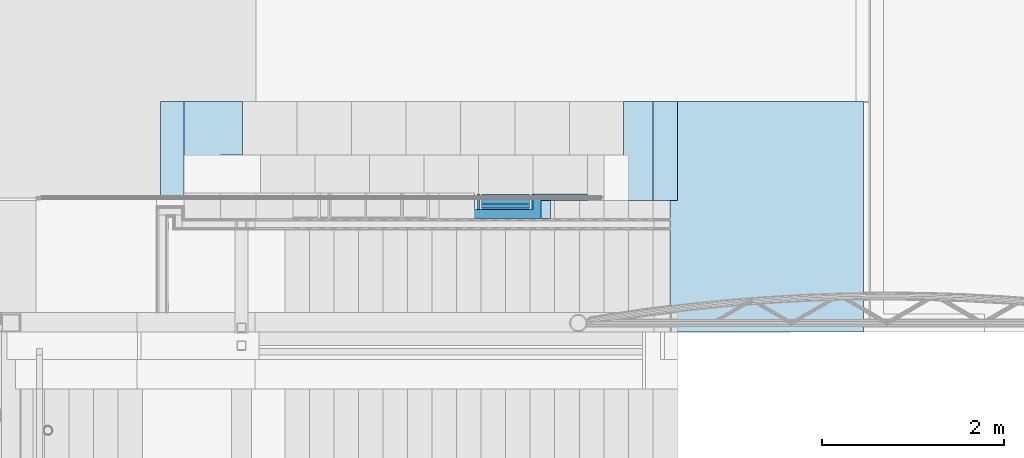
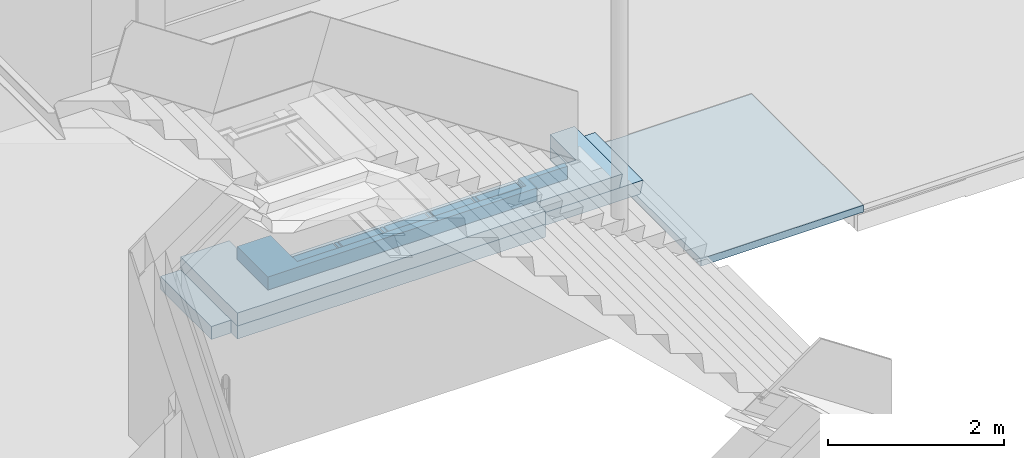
# One storey, part 18 of 165: 4 slabs.
"""IFC2X3 building model written with IfcOpenShell, lengths in millimetres."""

from ifc_helpers import new_model, entity, si_unit, converted_unit, derived_unit, money_unit, direction, frame, origin_with_axes, place, context, subcontext, project, spatial, faceted_brep, material, type_object, element, save


model = new_model("IFC2X3")

# Units and contexts
model_context = context("Model", 3, precision=0.01, world=origin_with_axes(), true_north=direction((0.0, 1.0)))
body_context = subcontext(model_context, "Body", "Model", "MODEL_VIEW")
ifc_project = project(units=[si_unit("LENGTHUNIT", "METRE", prefix="MILLI"), si_unit("AREAUNIT", "SQUARE_METRE"), si_unit("VOLUMEUNIT", "CUBIC_METRE"), converted_unit("PLANEANGLEUNIT", "DEGREE", entity("IfcPlaneAngleMeasure", 0.0174532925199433), si_unit("PLANEANGLEUNIT", "RADIAN"), dimensions=[0, 0, 0, 0, 0, 0, 0]), money_unit("EUR"), converted_unit("TIMEUNIT", "Year", entity("IfcTimeMeasure", 31556926.0), si_unit("TIMEUNIT", "SECOND"), dimensions=[0, 0, 1, 0, 0, 0, 0]), si_unit("MASSUNIT", "GRAM", prefix="KILO"), si_unit("THERMODYNAMICTEMPERATUREUNIT", "DEGREE_CELSIUS"), si_unit("LUMINOUSINTENSITYUNIT", "LUMEN"), si_unit("ENERGYUNIT", "JOULE", prefix="MEGA"), derived_unit("THERMALCONDUCTANCEUNIT", [(si_unit("POWERUNIT", "WATT"), 1), (si_unit("LENGTHUNIT", "METRE"), -1), (si_unit("THERMODYNAMICTEMPERATUREUNIT", "KELVIN"), -1)]), derived_unit("SPECIFICHEATCAPACITYUNIT", [(si_unit("ENERGYUNIT", "JOULE"), 1), (si_unit("MASSUNIT", "GRAM", prefix="KILO"), -1), (si_unit("THERMODYNAMICTEMPERATUREUNIT", "KELVIN"), -1)]), derived_unit("MASSDENSITYUNIT", [(si_unit("MASSUNIT", "GRAM", prefix="KILO"), 1), (si_unit("VOLUMEUNIT", "CUBIC_METRE"), -1)])], contexts=[model_context])

# Site, building, storey
site_placement = place(None, origin_with_axes())
site = spatial("IfcSite", under=ifc_project, at=site_placement, Name="Site", CompositionType="ELEMENT")
building_placement = place(site_placement, origin_with_axes())
building = spatial("IfcBuilding", under=site, at=building_placement, Name="Naam gebouw", CompositionType="ELEMENT")
storey_placement = place(building_placement, origin_with_axes())
storey = spatial("IfcBuildingStorey", under=building, at=storey_placement, Name="Begane grond", CompositionType="ELEMENT", Elevation=0.0)

# Slabs
ifc_material_1 = material(Name="Beton gewapend C vloer")
slab_type_1 = type_object("IfcSlabType", Name="Beton gewapend C vloer 180", PredefinedType="NOTDEFINED")
slab_1_placement = place(storey_placement, frame((13098.57016167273, 5869.999789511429, 180.0), z_axis=(0.0, 0.0, 1.0), x_axis=(1.0, 0.0, 0.0)))
element("IfcSlab", 1, at=slab_1_placement, inside=storey, type_object=slab_type_1, material=ifc_material_1, Name="f2- Met cement gebonden producten (alle vulmiddelen)_Vloer-x", PredefinedType="NOTDEFINED", context=body_context, shape_type="Brep", body=[
    faceted_brep([(0.0, 1150.000210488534, 0.0), (0.0, 0.0, 0.0), (259.9999958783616, 0.0, 0.0), (259.9999958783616, -140.0024851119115, 0.0), (4296.429850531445, -140.0024851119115, 0.0), (4296.429850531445, 60.00047262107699, 0.0), (5691.429855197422, 60.00047262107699, 0.0), (5691.429855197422, 1150.000210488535, 0.0), (5101.429827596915, 1150.000210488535, 0.0), (5101.429827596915, 560.0004646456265, 0.0), (901.4298777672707, 560.0004646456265, 0.0), (901.4298777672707, 1150.000210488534, 0.0), (-3.895159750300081e-07, 1150.000210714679, -179.9999997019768), (-3.895159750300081e-07, -1.367519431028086e-07, -179.9999997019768), (259.9999956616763, -1.367519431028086e-07, -179.9999997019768), (259.9999956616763, -140.0024855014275, -179.9999997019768), (4296.429850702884, -140.0024855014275, -179.9999997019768), (4296.429850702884, 60.00047256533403, -179.9999997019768), (5653.169673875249, 60.00047256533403, -179.9999997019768), (5653.169673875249, 1150.000210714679, -179.9999997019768), (5101.429828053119, 1150.000210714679, -179.9999997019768), (5101.429828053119, 560.0004641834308, -179.9999997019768), (901.4298781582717, 560.0004641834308, -179.9999997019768), (901.4298781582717, 1150.000210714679, -179.9999997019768)], [[[0, 1, 2, 3, 4, 5, 6, 7, 8, 9, 10, 11]], [[1, 0, 12, 13]], [[2, 1, 13, 14]], [[3, 2, 14, 15]], [[4, 3, 15, 16]], [[5, 4, 16, 17]], [[6, 5, 17, 18]], [[7, 6, 18, 19]], [[8, 7, 19, 20]], [[9, 8, 20, 21]], [[10, 9, 21, 22]], [[11, 10, 22, 23]], [[0, 11, 23, 12]], [[13, 12, 23, 22, 21, 20, 19, 18, 17, 16, 15, 14]]]),
])
slab_2_placement = place(storey_placement, frame((14200.00001687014, 6430.000239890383, 719.9999999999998), z_axis=(0.0, 0.0, 1.0), x_axis=(1.0, 0.0, 0.0)))
element("IfcSlab", 2, at=slab_2_placement, inside=storey, type_object=slab_type_1, material=ifc_material_1, Name="f2- Met cement gebonden producten (alle vulmiddelen)_Vloer-x", PredefinedType="NOTDEFINED", context=body_context, shape_type="Brep", body=[
    faceted_brep([(2436.000000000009, -590.9999999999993, -179.9999999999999), (2436.000000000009, -590.9999999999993, -68.00000000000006), (2964.000000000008, -590.9999999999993, -68.00000000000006), (2964.000000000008, -590.9999999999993, -179.9999999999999), (2436.000000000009, -599.9999999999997, -68.00000000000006), (2436.000000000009, -599.9999999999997, -179.9999999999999), (2964.000000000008, -599.9999999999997, -68.00000000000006), (2964.000000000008, -599.9999999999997, -179.9999999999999), (2982.000000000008, -599.9999999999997, -179.9999999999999), (2982.000000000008, -598.9999999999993, -179.9999999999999), (3000.000000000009, -598.9999999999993, -179.9999999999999), (3000.000000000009, -430.0000533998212, -179.9999999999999), (3600.00000000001, -430.0000640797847, -179.9999999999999), (3600.00000000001, -499.9999876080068, -179.9999999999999), (3086.312548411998, -499.9999876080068, -179.9999999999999), (3086.312548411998, -700.0029354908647, -179.9999999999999), (-441.4298611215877, -700.0029354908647, -179.9999999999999), (-441.4298611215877, 0.0, -179.9999999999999), (0.0, 0.0, -179.9999999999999), (0.0, -429.9999999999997, -179.9999999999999), (0.0, -599.9999999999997, -179.9999999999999), (18.00000000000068, -599.9999999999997, -179.9999999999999), (18.00000000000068, -590.9999999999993, -179.9999999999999), (564.0, -590.9999999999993, -179.9999999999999), (564.0, -599.9999999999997, -179.9999999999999), (582.0000000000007, -599.9999999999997, -179.9999999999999), (582.0000000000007, -598.9999999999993, -179.9999999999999), (618.0000000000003, -598.9999999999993, -179.9999999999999), (618.0000000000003, -599.9999999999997, -179.9999999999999), (635.9999999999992, -599.9999999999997, -179.9999999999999), (635.9999999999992, -590.9999999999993, -179.9999999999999), (1164.0, -590.9999999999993, -179.9999999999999), (1164.0, -599.9999999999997, -179.9999999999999), (1182.0, -599.9999999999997, -179.9999999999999), (1182.0, -598.9999999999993, -179.9999999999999), (1218.000000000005, -598.9999999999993, -179.9999999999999), (1218.000000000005, -599.9999999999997, -179.9999999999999), (1236.000000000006, -599.9999999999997, -179.9999999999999), (1236.000000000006, -590.9999999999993, -179.9999999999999), (1764.000000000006, -590.9999999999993, -179.9999999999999), (1764.000000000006, -599.9999999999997, -179.9999999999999), (1782.000000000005, -599.9999999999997, -179.9999999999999), (1782.000000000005, -598.9999999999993, -179.9999999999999), (1818.000000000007, -598.9999999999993, -179.9999999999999), (1818.000000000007, -599.9999999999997, -179.9999999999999), (1836.000000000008, -599.9999999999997, -179.9999999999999), (1836.000000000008, -590.9999999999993, -179.9999999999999), (2364.000000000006, -590.9999999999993, -179.9999999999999), (2364.000000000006, -599.9999999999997, -179.9999999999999), (2382.000000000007, -599.9999999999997, -179.9999999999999), (2382.000000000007, -598.9999999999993, -179.9999999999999), (2400.000000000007, -598.9999999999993, -179.9999999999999), (2418.000000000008, -598.9999999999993, -179.9999999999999), (2418.000000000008, -599.9999999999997, -179.9999999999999), (2418.000000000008, -599.9999999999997, -50.00000000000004), (2382.000000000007, -599.9999999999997, -50.00000000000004), (2364.000000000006, -599.9999999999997, -68.00000000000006), (1836.000000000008, -599.9999999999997, -68.00000000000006), (1818.000000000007, -599.9999999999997, -50.00000000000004), (1782.000000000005, -599.9999999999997, -50.00000000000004), (1764.000000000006, -599.9999999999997, -68.00000000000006), (1236.000000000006, -599.9999999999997, -68.00000000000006), (1218.000000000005, -599.9999999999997, -50.00000000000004), (1182.0, -599.9999999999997, -50.00000000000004), (1164.0, -599.9999999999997, -68.00000000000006), (635.9999999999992, -599.9999999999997, -68.00000000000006), (618.0000000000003, -599.9999999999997, -50.00000000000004), (582.0000000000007, -599.9999999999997, -50.00000000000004), (564.0, -599.9999999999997, -68.00000000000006), (18.00000000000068, -599.9999999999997, -68.00000000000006), (0.0, -599.9999999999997, -50.00000000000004), (0.0, -599.9999999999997, 0.0), (2400.000000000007, -599.9999999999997, 0.0), (3000.000000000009, -599.9999999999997, 0.0), (3000.000000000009, -599.9999999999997, -50.00000000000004), (2982.000000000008, -599.9999999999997, -50.00000000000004), (2982.000000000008, -430.0000640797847, -50.00000000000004), (2982.000000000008, -430.0000640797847, -50.99999999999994), (2982.000000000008, -598.9999999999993, -50.99999999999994), (3000.000000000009, -598.9999999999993, -50.99999999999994), (3000.000000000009, -430.0000640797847, -50.99999999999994), (3000.000000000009, -430.0000640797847, -50.00000000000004), (3000.000000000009, -430.0000533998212, 0.0), (3600.00000000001, -430.0000640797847, 0.0), (3600.00000000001, -499.9999876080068, 0.0), (3086.312548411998, -499.9999876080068, 0.0), (3086.312548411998, -700.0029354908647, 0.0), (-441.4298611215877, -700.0029354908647, 0.0), (-441.4298611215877, 0.0, 0.0), (0.0, 0.0, 0.0), (0.0, -429.9999999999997, 0.0), (18.00000000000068, -590.9999999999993, -68.00000000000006), (564.0, -590.9999999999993, -68.00000000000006), (582.0000000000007, -430.0000640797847, -50.99999999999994), (582.0000000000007, -598.9999999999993, -50.99999999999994), (582.0000000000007, -430.000062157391, -50.00000000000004), (618.0000000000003, -598.9999999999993, -50.99999999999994), (618.0000000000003, -430.0000640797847, -50.99999999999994), (618.0000000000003, -430.0000640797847, -50.00000000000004), (635.9999999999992, -590.9999999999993, -68.00000000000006), (1164.0, -590.9999999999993, -68.00000000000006), (1182.0, -598.9999999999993, -50.99999999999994), (1182.0, -430.0000640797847, -50.00000000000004), (1182.0, -430.0000640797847, -50.99999999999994), (1218.000000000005, -598.9999999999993, -50.99999999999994), (1218.000000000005, -430.0000640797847, -50.99999999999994), (1218.000000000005, -430.0000640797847, -50.00000000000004), (1236.000000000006, -590.9999999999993, -68.00000000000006), (1764.000000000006, -590.9999999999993, -68.00000000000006), (1782.000000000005, -430.0000640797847, -50.00000000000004), (1782.000000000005, -430.0000640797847, -50.99999999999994), (1782.000000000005, -598.9999999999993, -50.99999999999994), (1818.000000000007, -598.9999999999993, -50.99999999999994), (1818.000000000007, -430.0000640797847, -50.99999999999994), (1818.000000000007, -430.0000640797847, -50.00000000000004), (1836.000000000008, -590.9999999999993, -68.00000000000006), (2364.000000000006, -590.9999999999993, -68.00000000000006), (2382.000000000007, -430.0000640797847, -50.00000000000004), (2382.000000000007, -430.0000640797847, -50.99999999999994), (2382.000000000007, -598.9999999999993, -50.99999999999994), (2418.000000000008, -598.9999999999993, -50.99999999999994), (2418.000000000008, -430.0000640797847, -50.99999999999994), (2418.000000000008, -430.0000640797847, -50.00000000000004), (2400.000000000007, -430.0000640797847, -50.00000000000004), (2400.000000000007, -430.0000640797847, -50.99999999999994)], [[[0, 1, 2, 3]], [[4, 1, 0, 5]], [[1, 4, 6, 2]], [[3, 2, 6, 7]], [[5, 0, 3, 7, 8, 9, 10, 11, 12, 13, 14, 15, 16, 17, 18, 19, 20, 21, 22, 23, 24, 25, 26, 27, 28, 29, 30, 31, 32, 33, 34, 35, 36, 37, 38, 39, 40, 41, 42, 43, 44, 45, 46, 47, 48, 49, 50, 51, 52, 53]], [[54, 55, 49, 48, 56, 57, 45, 44, 58, 59, 41, 40, 60, 61, 37, 36, 62, 63, 33, 32, 64, 65, 29, 28, 66, 67, 25, 24, 68, 69, 21, 20, 70, 71, 72, 73, 74, 75, 8, 7, 6, 4, 5, 53]], [[75, 76, 77, 78, 9, 8]], [[9, 78, 79, 10]], [[80, 11, 10, 79]], [[77, 76, 81, 82, 83, 12, 11, 80]], [[83, 84, 13, 12]], [[84, 85, 14, 13]], [[85, 86, 15, 14]], [[86, 87, 16, 15]], [[87, 88, 17, 16]], [[88, 89, 18, 17]], [[19, 18, 89, 90]], [[20, 19, 90, 71, 70]], [[69, 91, 22, 21]], [[92, 23, 22, 91]], [[23, 92, 68, 24]], [[93, 94, 26, 25, 67, 95]], [[27, 26, 94, 96]], [[28, 27, 96, 97, 98, 66]], [[99, 30, 29, 65]], [[31, 30, 99, 100]], [[100, 64, 32, 31]], [[101, 34, 33, 63, 102, 103]], [[34, 101, 104, 35]], [[35, 104, 105, 106, 62, 36]], [[38, 37, 61, 107]], [[108, 39, 38, 107]], [[60, 40, 39, 108]], [[42, 41, 59, 109, 110, 111]], [[111, 112, 43, 42]], [[112, 113, 114, 58, 44, 43]], [[45, 57, 115, 46]], [[115, 116, 47, 46]], [[48, 47, 116, 56]], [[49, 55, 117, 118, 119, 50]], [[120, 52, 51, 50, 119]], [[121, 122, 54, 53, 52, 120]], [[54, 122, 123, 117, 55]], [[57, 56, 116, 115]], [[59, 58, 114, 109]], [[60, 108, 107, 61]], [[102, 63, 62, 106]], [[100, 99, 65, 64]], [[98, 95, 67, 66]], [[68, 92, 91, 69]], [[73, 72, 71, 90, 89, 88, 87, 86, 85, 84, 83, 82]], [[73, 82, 81, 74]], [[76, 75, 74, 81]], [[78, 77, 80, 79]], [[96, 94, 93, 97]], [[97, 93, 95, 98]], [[103, 102, 106, 105]], [[101, 103, 105, 104]], [[109, 114, 113, 110]], [[110, 113, 112, 111]], [[122, 121, 124, 118, 117, 123]], [[121, 120, 119, 118, 124]]]),
    faceted_brep([(2436.000000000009, -430.0000433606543, -179.9999999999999), (2436.000000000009, -430.0000640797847, -50.00000000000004), (2964.000000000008, -430.0000640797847, -50.00000000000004), (2964.000000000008, -430.0000527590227, -179.9999999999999), (2959.000000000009, -430.0000526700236, -179.9999999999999), (2959.000000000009, -430.0000640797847, -73.00000000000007), (2939.000000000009, -430.0000640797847, -73.00000000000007), (2939.000000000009, -430.0000523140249, -179.9999999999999), (2461.000000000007, -430.000043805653, -179.9999999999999), (2461.000000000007, -430.0000640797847, -73.00000000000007), (2441.000000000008, -430.0000640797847, -73.00000000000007), (2441.000000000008, -430.0000434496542, -179.9999999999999), (2436.000000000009, -539.9999999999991, -50.00000000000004), (2436.000000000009, -581.9999999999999, -179.9999999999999), (2436.000000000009, -581.9999999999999, -68.00000000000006), (2436.000000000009, -539.9999999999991, -68.00000000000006), (2964.000000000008, -540.0, -50.00000000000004), (2964.000000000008, -540.0, -68.00000000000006), (2964.000000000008, -581.9999999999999, -68.00000000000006), (2964.000000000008, -581.9999999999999, -179.9999999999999), (2959.000000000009, -581.9999999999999, -179.9999999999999), (2959.000000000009, -581.9999999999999, -73.00000000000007), (2461.000000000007, -577.0, -73.00000000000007), (2461.000000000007, -581.9999999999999, -73.00000000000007), (2441.000000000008, -581.9999999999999, -73.00000000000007), (2461.000000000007, -566.9999999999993, -73.00000000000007), (2939.000000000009, -566.9999999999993, -73.00000000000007), (2939.000000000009, -581.9999999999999, -73.00000000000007), (2939.000000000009, -577.0, -73.00000000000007), (2939.000000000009, -566.9999999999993, -179.9999999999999), (2461.000000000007, -566.9999999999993, -179.9999999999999), (2441.000000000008, -581.9999999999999, -179.9999999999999), (2461.000000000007, -581.9999999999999, -179.9999999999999), (2939.000000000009, -581.9999999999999, -179.9999999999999), (2461.000000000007, -577.0, -179.9999999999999), (2939.000000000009, -577.0, -179.9999999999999)], [[[0, 1, 2, 3, 4, 5, 6, 7, 8, 9, 10, 11]], [[12, 1, 0, 13, 14, 15]], [[1, 12, 16, 2]], [[3, 2, 16, 17, 18, 19]], [[3, 19, 20, 4]], [[5, 4, 20, 21]], [[22, 23, 24, 10, 9, 25, 26, 6, 5, 21, 27, 28]], [[7, 6, 26, 29]], [[30, 8, 7, 29]], [[9, 8, 30, 25]], [[11, 10, 24, 31]], [[13, 0, 11, 31]], [[14, 13, 31, 24, 23, 32, 33, 27, 21, 20, 19, 18]], [[15, 14, 18, 17]], [[12, 15, 17, 16]], [[22, 34, 32, 23]], [[25, 30, 29, 26]], [[35, 28, 27, 33]], [[34, 22, 28, 35]], [[32, 34, 35, 33]]]),
    faceted_brep([(2364.000000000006, -540.0, -50.00000000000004), (2364.000000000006, -430.0000640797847, -50.00000000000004), (1836.000000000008, -430.0000640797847, -50.00000000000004), (1836.000000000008, -540.0, -50.00000000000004), (2364.000000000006, -430.0000420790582, -179.9999999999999), (2364.000000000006, -540.0, -68.00000000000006), (2364.000000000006, -581.9999999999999, -68.00000000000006), (2364.000000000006, -581.9999999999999, -179.9999999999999), (2359.000000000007, -430.0000419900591, -179.9999999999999), (2359.000000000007, -430.0000640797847, -73.00000000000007), (2339.000000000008, -430.0000640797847, -73.00000000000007), (2339.000000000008, -430.0000416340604, -179.9999999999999), (1861.000000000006, -430.0000331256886, -179.9999999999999), (1861.000000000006, -430.0000640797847, -73.00000000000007), (1841.000000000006, -430.0000640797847, -73.00000000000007), (1841.000000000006, -430.0000327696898, -179.9999999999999), (1836.000000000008, -430.0000326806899, -179.9999999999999), (1836.000000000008, -581.9999999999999, -179.9999999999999), (1836.000000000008, -581.9999999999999, -68.00000000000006), (1836.000000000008, -540.0, -68.00000000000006), (1841.000000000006, -581.9999999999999, -179.9999999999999), (1841.000000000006, -581.9999999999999, -73.00000000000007), (1861.000000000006, -581.9999999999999, -73.00000000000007), (1861.000000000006, -581.9999999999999, -179.9999999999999), (2339.000000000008, -581.9999999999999, -179.9999999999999), (2339.000000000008, -581.9999999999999, -73.00000000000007), (2359.000000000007, -581.9999999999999, -73.00000000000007), (2359.000000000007, -581.9999999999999, -179.9999999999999), (2339.000000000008, -566.9999999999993, -73.00000000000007), (2339.000000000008, -577.0, -73.00000000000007), (1861.000000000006, -577.0, -73.00000000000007), (1861.000000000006, -566.9999999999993, -73.00000000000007), (2339.000000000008, -566.9999999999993, -179.9999999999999), (1861.000000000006, -566.9999999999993, -179.9999999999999), (1861.000000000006, -577.0, -179.9999999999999), (2339.000000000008, -577.0, -179.9999999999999)], [[[0, 1, 2, 3]], [[4, 1, 0, 5, 6, 7]], [[1, 4, 8, 9, 10, 11, 12, 13, 14, 15, 16, 2]], [[3, 2, 16, 17, 18, 19]], [[5, 0, 3, 19]], [[6, 5, 19, 18]], [[7, 6, 18, 17, 20, 21, 22, 23, 24, 25, 26, 27]], [[4, 7, 27, 8]], [[9, 8, 27, 26]], [[28, 10, 9, 26, 25, 29, 30, 22, 21, 14, 13, 31]], [[11, 10, 28, 32]], [[11, 32, 33, 12]], [[13, 12, 33, 31]], [[15, 14, 21, 20]], [[17, 16, 15, 20]], [[30, 34, 23, 22]], [[35, 24, 23, 34]], [[35, 29, 25, 24]], [[29, 35, 34, 30]], [[32, 28, 31, 33]]]),
    faceted_brep([(1236.000000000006, -430.0000220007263, -179.9999999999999), (1236.000000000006, -430.0000640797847, -50.00000000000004), (1764.000000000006, -430.0000640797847, -50.00000000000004), (1764.000000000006, -430.0000313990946, -179.9999999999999), (1759.000000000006, -430.0000313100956, -179.9999999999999), (1759.000000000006, -430.0000640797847, -73.00000000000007), (1739.000000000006, -430.0000640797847, -73.00000000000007), (1739.000000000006, -430.0000309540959, -179.9999999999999), (1261.000000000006, -430.000022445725, -179.9999999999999), (1261.000000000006, -430.0000640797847, -73.00000000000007), (1241.000000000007, -430.0000640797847, -73.00000000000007), (1241.000000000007, -430.0000220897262, -179.9999999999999), (1236.000000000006, -539.9999999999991, -50.00000000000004), (1236.000000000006, -581.9999999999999, -179.9999999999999), (1236.000000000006, -581.9999999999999, -68.00000000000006), (1236.000000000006, -539.9999999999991, -68.00000000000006), (1764.000000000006, -540.0, -50.00000000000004), (1764.000000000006, -540.0, -68.00000000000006), (1764.000000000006, -581.9999999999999, -68.00000000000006), (1764.000000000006, -581.9999999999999, -179.9999999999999), (1759.000000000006, -581.9999999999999, -179.9999999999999), (1759.000000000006, -581.9999999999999, -73.00000000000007), (1261.000000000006, -577.0, -73.00000000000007), (1261.000000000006, -581.9999999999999, -73.00000000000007), (1241.000000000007, -581.9999999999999, -73.00000000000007), (1261.000000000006, -566.9999999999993, -73.00000000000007), (1739.000000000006, -566.9999999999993, -73.00000000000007), (1739.000000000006, -581.9999999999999, -73.00000000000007), (1739.000000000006, -577.0, -73.00000000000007), (1739.000000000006, -566.9999999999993, -179.9999999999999), (1261.000000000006, -566.9999999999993, -179.9999999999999), (1241.000000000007, -581.9999999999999, -179.9999999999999), (1261.000000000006, -581.9999999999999, -179.9999999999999), (1739.000000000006, -581.9999999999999, -179.9999999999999), (1261.000000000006, -577.0, -179.9999999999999), (1739.000000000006, -577.0, -179.9999999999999)], [[[0, 1, 2, 3, 4, 5, 6, 7, 8, 9, 10, 11]], [[12, 1, 0, 13, 14, 15]], [[1, 12, 16, 2]], [[3, 2, 16, 17, 18, 19]], [[3, 19, 20, 4]], [[5, 4, 20, 21]], [[22, 23, 24, 10, 9, 25, 26, 6, 5, 21, 27, 28]], [[7, 6, 26, 29]], [[30, 8, 7, 29]], [[9, 8, 30, 25]], [[11, 10, 24, 31]], [[13, 0, 11, 31]], [[14, 13, 31, 24, 23, 32, 33, 27, 21, 20, 19, 18]], [[15, 14, 18, 17]], [[12, 15, 17, 16]], [[22, 34, 32, 23]], [[25, 30, 29, 26]], [[35, 28, 27, 33]], [[34, 22, 28, 35]], [[32, 34, 35, 33]]]),
    faceted_brep([(1164.0, -540.0, -50.00000000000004), (1164.0, -430.0000640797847, -50.00000000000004), (635.9999999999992, -430.0000640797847, -50.00000000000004), (635.9999999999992, -540.0, -50.00000000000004), (1164.0, -430.0000207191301, -179.9999999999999), (1164.0, -540.0, -68.00000000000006), (1164.0, -581.9999999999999, -68.00000000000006), (1164.0, -581.9999999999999, -179.9999999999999), (1158.999999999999, -430.0000206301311, -179.9999999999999), (1158.999999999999, -430.0000640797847, -73.00000000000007), (1138.999999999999, -430.0000640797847, -73.00000000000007), (1138.999999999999, -430.0000202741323, -179.9999999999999), (660.9999999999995, -430.0000117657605, -179.9999999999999), (660.9999999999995, -430.0000640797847, -73.00000000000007), (641.0, -430.0000640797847, -73.00000000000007), (641.0, -430.0000114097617, -179.9999999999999), (635.9999999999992, -430.0000113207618, -179.9999999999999), (635.9999999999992, -581.9999999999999, -179.9999999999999), (635.9999999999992, -581.9999999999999, -68.00000000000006), (635.9999999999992, -540.0, -68.00000000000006), (641.0, -581.9999999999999, -179.9999999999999), (641.0, -581.9999999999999, -73.00000000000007), (660.9999999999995, -581.9999999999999, -73.00000000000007), (660.9999999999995, -581.9999999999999, -179.9999999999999), (1138.999999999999, -581.9999999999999, -179.9999999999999), (1138.999999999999, -581.9999999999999, -73.00000000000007), (1158.999999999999, -581.9999999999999, -73.00000000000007), (1158.999999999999, -581.9999999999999, -179.9999999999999), (1138.999999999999, -566.9999999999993, -73.00000000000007), (1138.999999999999, -577.0, -73.00000000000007), (660.9999999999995, -577.0, -73.00000000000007), (660.9999999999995, -566.9999999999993, -73.00000000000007), (1138.999999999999, -566.9999999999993, -179.9999999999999), (660.9999999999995, -566.9999999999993, -179.9999999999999), (660.9999999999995, -577.0, -179.9999999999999), (1138.999999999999, -577.0, -179.9999999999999)], [[[0, 1, 2, 3]], [[4, 1, 0, 5, 6, 7]], [[1, 4, 8, 9, 10, 11, 12, 13, 14, 15, 16, 2]], [[3, 2, 16, 17, 18, 19]], [[5, 0, 3, 19]], [[6, 5, 19, 18]], [[7, 6, 18, 17, 20, 21, 22, 23, 24, 25, 26, 27]], [[4, 7, 27, 8]], [[9, 8, 27, 26]], [[28, 10, 9, 26, 25, 29, 30, 22, 21, 14, 13, 31]], [[11, 10, 28, 32]], [[11, 32, 33, 12]], [[13, 12, 33, 31]], [[15, 14, 21, 20]], [[17, 16, 15, 20]], [[30, 34, 23, 22]], [[35, 24, 23, 34]], [[35, 29, 25, 24]], [[29, 35, 34, 30]], [[32, 28, 31, 33]]]),
    faceted_brep([(564.0, -540.0, -50.00000000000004), (564.0, -430.0000602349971, -50.00000000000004), (18.00000000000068, -430.0000019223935, -50.00000000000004), (18.00000000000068, -540.0, -50.00000000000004), (564.0, -430.0000100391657, -179.9999999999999), (564.0, -540.0, -68.00000000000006), (564.0, -581.9999999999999, -68.00000000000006), (564.0, -581.9999999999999, -179.9999999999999), (558.9999999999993, -430.0000099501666, -179.9999999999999), (558.9999999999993, -430.0000640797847, -73.00000000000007), (538.9999999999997, -430.0000640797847, -73.00000000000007), (538.9999999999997, -430.0000095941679, -179.9999999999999), (42.99999999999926, -430.0000007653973, -179.9999999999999), (42.99999999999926, -430.0000640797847, -73.00000000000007), (22.99999999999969, -430.0000640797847, -73.00000000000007), (22.99999999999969, -430.0000004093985, -179.9999999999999), (18.00000000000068, -430.0000003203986, -179.9999999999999), (18.00000000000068, -581.9999999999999, -179.9999999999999), (18.00000000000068, -581.9999999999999, -68.00000000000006), (18.00000000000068, -540.0, -68.00000000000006), (22.99999999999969, -581.9999999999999, -179.9999999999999), (22.99999999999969, -581.9999999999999, -73.00000000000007), (42.99999999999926, -581.9999999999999, -73.00000000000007), (42.99999999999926, -581.9999999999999, -179.9999999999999), (538.9999999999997, -581.9999999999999, -179.9999999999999), (538.9999999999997, -581.9999999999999, -73.00000000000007), (558.9999999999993, -581.9999999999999, -73.00000000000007), (558.9999999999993, -581.9999999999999, -179.9999999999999), (538.9999999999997, -566.9999999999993, -73.00000000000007), (538.9999999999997, -577.0, -73.00000000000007), (42.99999999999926, -577.0, -73.00000000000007), (42.99999999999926, -566.9999999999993, -73.00000000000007), (538.9999999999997, -566.9999999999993, -179.9999999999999), (42.99999999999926, -566.9999999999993, -179.9999999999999), (42.99999999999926, -577.0, -179.9999999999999), (538.9999999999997, -577.0, -179.9999999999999)], [[[0, 1, 2, 3]], [[4, 1, 0, 5, 6, 7]], [[1, 4, 8, 9, 10, 11, 12, 13, 14, 15, 16, 2]], [[3, 2, 16, 17, 18, 19]], [[5, 0, 3, 19]], [[6, 5, 19, 18]], [[7, 6, 18, 17, 20, 21, 22, 23, 24, 25, 26, 27]], [[4, 7, 27, 8]], [[9, 8, 27, 26]], [[28, 10, 9, 26, 25, 29, 30, 22, 21, 14, 13, 31]], [[11, 10, 28, 32]], [[11, 32, 33, 12]], [[13, 12, 33, 31]], [[15, 14, 21, 20]], [[17, 16, 15, 20]], [[30, 34, 23, 22]], [[35, 24, 23, 34]], [[35, 29, 25, 24]], [[29, 35, 34, 30]], [[32, 28, 31, 33]]]),
])
ifc_material_2 = material(Name="Hout - Multiplex")
slab_type_2 = type_object("IfcSlabType", Name="Hout - Multiplex 180", PredefinedType="NOTDEFINED")
slab_3_placement = place(storey_placement, frame((13358.57015574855, 6430.000232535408, 360.0), z_axis=(0.0, 0.0, 1.0), x_axis=(1.0, 0.0, 0.0)))
element("IfcSlab", 3, at=slab_3_placement, inside=storey, type_object=slab_type_2, material=ifc_material_2, Name="i4 In lagen verlijmd hout_Vloer-x", PredefinedType="NOTDEFINED", context=body_context, shape_type="Brep", body=[
    faceted_brep([(0.0, 589.9997674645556, 0.0), (0.0, -700.0029281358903, 0.0), (4036.429849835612, -700.0029281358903, 0.0), (4036.429849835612, -499.9999050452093, 0.0), (5161.42986692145, -499.9999050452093, 0.0), (5161.42986692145, 589.9997674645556, 0.0), (4841.429875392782, 589.9997674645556, 0.0), (4841.429875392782, 0.0, 0.0), (641.4298423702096, 0.0, 0.0), (641.4298423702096, 589.9997674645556, 0.0), (-3.895159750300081e-07, 589.9997676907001, -179.9999997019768), (-3.895159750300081e-07, -700.0029285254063, -179.9999997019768), (4036.429849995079, -700.0029285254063, -179.9999997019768), (4036.429849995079, -499.9999052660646, -179.9999997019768), (5123.169685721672, -499.9999052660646, -179.9999997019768), (5123.169685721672, 589.9997676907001, -179.9999997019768), (4841.429875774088, 589.9997676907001, -179.9999997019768), (4841.429875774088, -2.609672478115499e-07, -179.9999997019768), (641.4298420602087, -2.609672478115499e-07, -179.9999997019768), (641.4298420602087, 589.9997676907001, -179.9999997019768)], [[[0, 1, 2, 3, 4, 5, 6, 7, 8, 9]], [[1, 0, 10, 11]], [[2, 1, 11, 12]], [[3, 2, 12, 13]], [[4, 3, 13, 14]], [[5, 4, 14, 15]], [[6, 5, 15, 16]], [[7, 6, 16, 17]], [[8, 7, 17, 18]], [[9, 8, 18, 19]], [[0, 9, 19, 10]], [[11, 10, 19, 18, 17, 16, 15, 14, 13, 12]]]),
])
ifc_material_3 = material(Name="Beton gewapend C")
slab_type_3 = type_object("IfcSlabType", Name="Beton gewapend C 100", PredefinedType="NOTDEFINED")
slab_4_placement = place(storey_placement, frame((18709.99795555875, 7019.999999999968, -5.000000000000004), z_axis=(0.0, 0.0, 1.0), x_axis=(1.0, 0.0, 0.0)))
element("IfcSlab", 4, at=slab_4_placement, inside=storey, type_object=slab_type_3, material=ifc_material_3, Name="f2- Met cement gebonden producten (alle vulmiddelen)_Vloer-x", PredefinedType="NOTDEFINED", context=body_context, shape_type="Brep", body=[
    faceted_brep([(2130.00204444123, -2540.000743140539, -94.99999999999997), (2130.00204444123, 0.0, -94.99999999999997), (2130.00204444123, 0.0, 0.0), (2130.00204444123, -2540.000743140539, 0.0), (1865.002099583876, -2340.000003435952, -94.99999999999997), (2049.999978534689, -2340.000006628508, -94.99999999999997), (2049.999978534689, 0.0, -94.99999999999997), (1865.002096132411, -2540.000743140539, -94.99999999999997), (2049.999974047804, 0.0, -100.0), (0.0, 0.0, -100.0), (0.0, 0.0, 0.0), (0.0, -2540.000743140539, 0.0), (1865.002096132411, -2540.000743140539, -100.0), (0.0, -2540.000743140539, -100.0), (1865.002099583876, -2340.000003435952, -100.0), (2049.999977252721, -2340.000006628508, -100.0)], [[[0, 1, 2, 3]], [[4, 5, 6, 1, 0, 7]], [[1, 6, 8, 9, 10, 2]], [[3, 2, 10, 11]], [[12, 7, 0, 3, 11, 13]], [[14, 15, 5, 4]], [[15, 8, 6, 5]], [[7, 12, 14, 4]], [[9, 8, 15, 14, 12, 13]], [[11, 10, 9, 13]]]),
])

save(model, "model.ifc")
